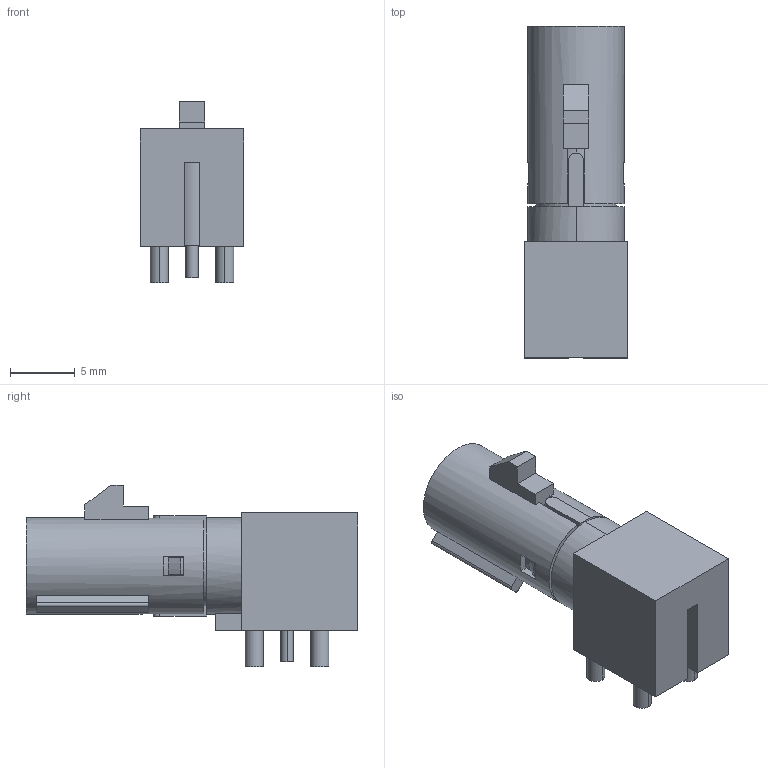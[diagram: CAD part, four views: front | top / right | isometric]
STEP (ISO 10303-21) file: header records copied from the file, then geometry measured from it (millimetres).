
FILE_DESCRIPTION(/* description */ (''),/* implementation_level */ '2;1');
FILE_NAME(/* name */ '734040819wbm000_01_214.stp',/* time_stamp */ '2021-10-19T17:21:01+06:00',/* author */ (''),/* organization */ (''),/* preprocessor_version */ 'ST-DEVELOPER v16.7',/* originating_system */ 'SIEMENS PLM Software NX 1919',/* authorisation */ '');
FILE_SCHEMA (('AUTOMOTIVE_DESIGN { 1 0 10303 214 3 1 1 1 }'));
Length unit declared in the file: millimetre
Products named in the file (1): 734040819wbm000_01
Bounding box: 8 x 25.72 x 14.05 mm (x, y, z)
Volume: 1201.8 mm3; surface area: 1386.9 mm2
Topology: 1 solids, 1 shells, 135 faces, 353 edges, 232 vertices
Faces by surface type: plane 78, cylinder 46, cone 11
Full cylindrical faces by diameter (mm): 1.587 x1, 6.274 x1, 7.493 x1
Entity records: 4407 total; most frequent: CARTESIAN_POINT 943, DIRECTION 755, ORIENTED_EDGE 698, EDGE_CURVE 349, AXIS2_PLACEMENT_3D 278, VERTEX_POINT 232, LINE 199, VECTOR 199
